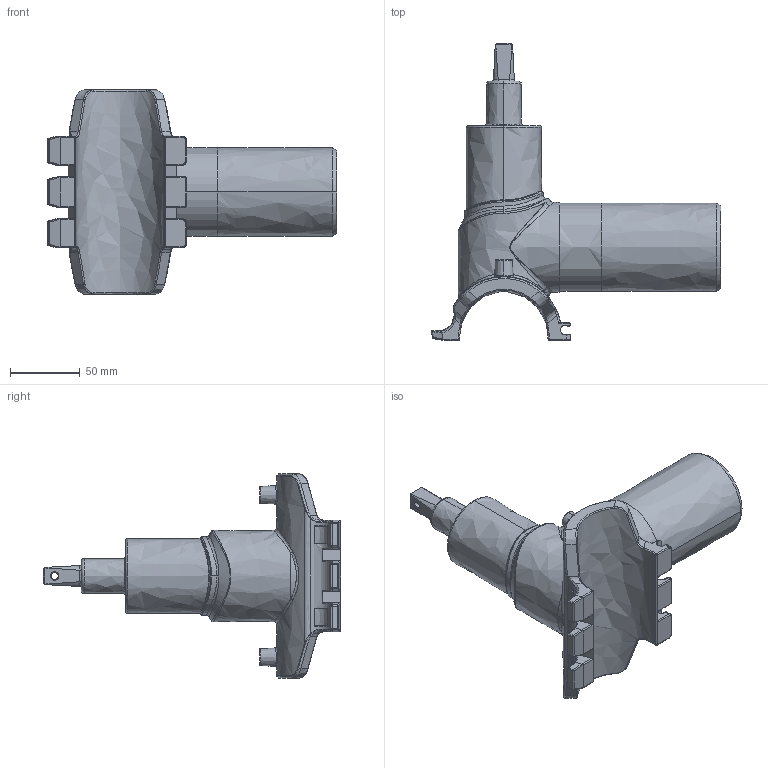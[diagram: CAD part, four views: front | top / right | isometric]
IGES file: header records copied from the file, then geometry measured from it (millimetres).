
Start section:  PTC IGES file: dav2_d063_63_01.igs
Global section: file name: dav2_d063_63_01.igs; native system: Creo Parametric by PTC Inc.; preprocessor: 2022124; author: mikulicp; organization: Unknown; date: 20240502.153311; units: millimetre
Bounding box: 206.91 x 212.35 x 146 mm (x, y, z)
Surface area: 105331.8 mm2 (no closed solid volume)
Topology: 0 solids, 0 shells, 533 faces, 2602 edges, 2596 vertices
Faces by surface type: bspline 533
